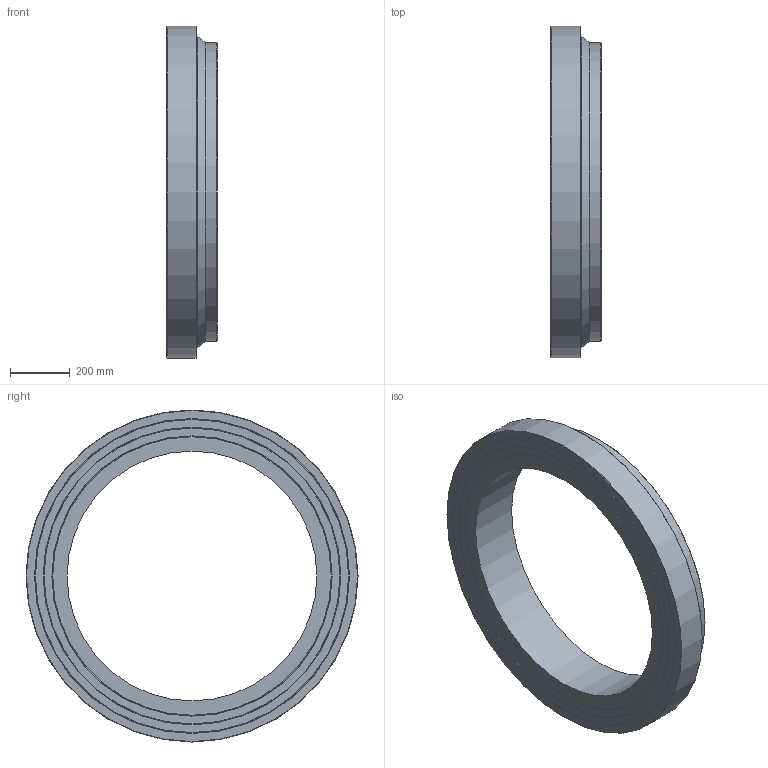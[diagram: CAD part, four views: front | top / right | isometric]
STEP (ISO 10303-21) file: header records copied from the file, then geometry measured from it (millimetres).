
FILE_DESCRIPTION(/* description */ ('Unknown'),/* implementation_level */ '2;1');
FILE_NAME(/* name */ 'CCP1000C',/* time_stamp */ '2022-04-04T15:43:05+02:00',/* author */ ('Unknown'),/* organization */ ('Unknown'),/* preprocessor_version */ 'ST-DEVELOPER v18.1',/* originating_system */ 'Solid Edge',/* authorisation */ 'Unknown');
FILE_SCHEMA (('AUTOMOTIVE_DESIGN {1 0 10303 214 3 1 1}'));
Length unit declared in the file: millimetre
Products named in the file (1): CCP1000C
Bounding box: 170 x 1111 x 1111 mm (x, y, z)
Volume: 59660374.8 mm3; surface area: 1802993.3 mm2
Topology: 1 solids, 1 shells, 20 faces, 35 edges, 21 vertices
Faces by surface type: cone 10, plane 6, cylinder 3, torus 1
Full cylindrical faces by diameter (mm): 836.2 x1, 1000 x1, 1111 x1
Entity records: 438 total; most frequent: DIRECTION 82, CARTESIAN_POINT 61, AXIS2_PLACEMENT_3D 41, ORIENTED_EDGE 40, EDGE_LOOP 40, FACE_BOUND 40, EDGE_CURVE 20, VERTEX_POINT 20
